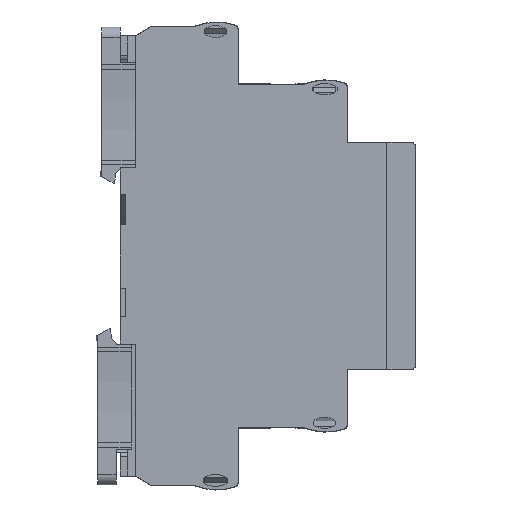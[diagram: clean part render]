
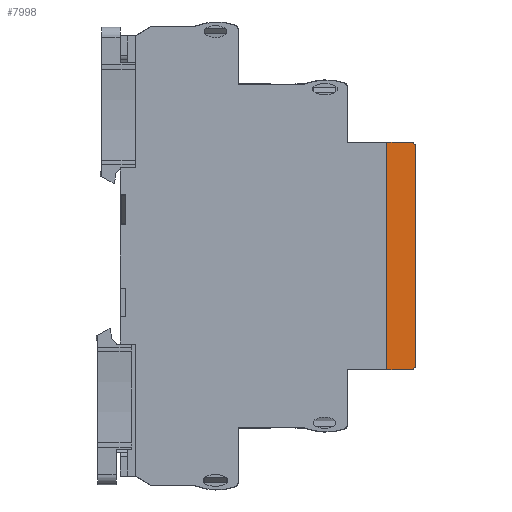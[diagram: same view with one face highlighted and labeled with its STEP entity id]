
A CAD part, front view. The second image highlights one B-rep face of the part: STEP entity #7998.
In plain terms, the highlighted planar face has unit normal (0, -1, 0) as drawn and (-1, 0, 0) by its records, which use the part's own axes.
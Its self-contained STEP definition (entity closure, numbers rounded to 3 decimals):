
#7998=ADVANCED_FACE('',(#89861),#89863,.T.);
#89861=FACE_BOUND('',#89862,.T.);
#89862=EDGE_LOOP('',(#152166,#152167,#152168,#152169,#152170,#152171));
#89863=PLANE('',#89864);
#89864=AXIS2_PLACEMENT_3D('',#89865,#89866,#89867);
#89865=CARTESIAN_POINT('',(-6.5,-22.6,1.5));
#89866=DIRECTION('',(-1.,0.,0.));
#89867=DIRECTION('',(0.,0.,1.));
#152166=ORIENTED_EDGE('',*,*,#211447,.T.);
#152167=ORIENTED_EDGE('',*,*,#211451,.T.);
#152168=ORIENTED_EDGE('',*,*,#211452,.F.);
#152169=ORIENTED_EDGE('',*,*,#211453,.T.);
#152170=ORIENTED_EDGE('',*,*,#211436,.F.);
#152171=ORIENTED_EDGE('',*,*,#211435,.T.);
#211435=EDGE_CURVE('',#238668,#238681,#238683,.T.);
#211436=EDGE_CURVE('',#238668,#238684,#238685,.T.);
#211447=EDGE_CURVE('',#238681,#238701,#238703,.T.);
#211451=EDGE_CURVE('',#238701,#238709,#238710,.T.);
#211452=EDGE_CURVE('',#238711,#238709,#238712,.T.);
#211453=EDGE_CURVE('',#238711,#238684,#238713,.T.);
#238668=VERTEX_POINT('',#285743);
#238681=VERTEX_POINT('',#285768);
#238683=LINE('',#285772,#285773);
#238684=VERTEX_POINT('',#285775);
#238685=LINE('',#285776,#285777);
#238701=VERTEX_POINT('',#285814);
#238703=LINE('',#285818,#285819);
#238709=VERTEX_POINT('',#285832);
#238710=CIRCLE('',#285833,1.);
#238711=VERTEX_POINT('',#285837);
#238712=LINE('',#285838,#285839);
#238713=CIRCLE('',#285841,1.);
#285743=CARTESIAN_POINT('',(-6.5,-22.6,5.75));
#285768=CARTESIAN_POINT('',(-6.5,22.6,5.75));
#285772=CARTESIAN_POINT('',(-6.5,-22.6,5.75));
#285773=VECTOR('',#285774,1.);
#285774=DIRECTION('',(0.,1.,0.));
#285775=CARTESIAN_POINT('',(-6.5,-22.6,1.));
#285776=CARTESIAN_POINT('',(-6.5,-22.6,5.75));
#285777=VECTOR('',#285778,1.);
#285778=DIRECTION('',(0.,0.,-1.));
#285814=CARTESIAN_POINT('',(-6.5,22.6,1.));
#285818=CARTESIAN_POINT('',(-6.5,22.6,5.75));
#285819=VECTOR('',#285820,1.);
#285820=DIRECTION('',(0.,0.,-1.));
#285832=CARTESIAN_POINT('',(-6.5,21.6,0.));
#285833=AXIS2_PLACEMENT_3D('',#285834,#285835,#285836);
#285834=CARTESIAN_POINT('',(-6.5,21.6,1.));
#285835=DIRECTION('',(-1.,0.,0.));
#285836=DIRECTION('',(0.,1.,0.));
#285837=CARTESIAN_POINT('',(-6.5,-21.6,0.));
#285838=CARTESIAN_POINT('',(-6.5,-21.6,0.));
#285839=VECTOR('',#285840,1.);
#285840=DIRECTION('',(0.,1.,0.));
#285841=AXIS2_PLACEMENT_3D('',#285842,#285843,#285844);
#285842=CARTESIAN_POINT('',(-6.5,-21.6,1.));
#285843=DIRECTION('',(-1.,0.,0.));
#285844=DIRECTION('',(0.,0.,-1.));
